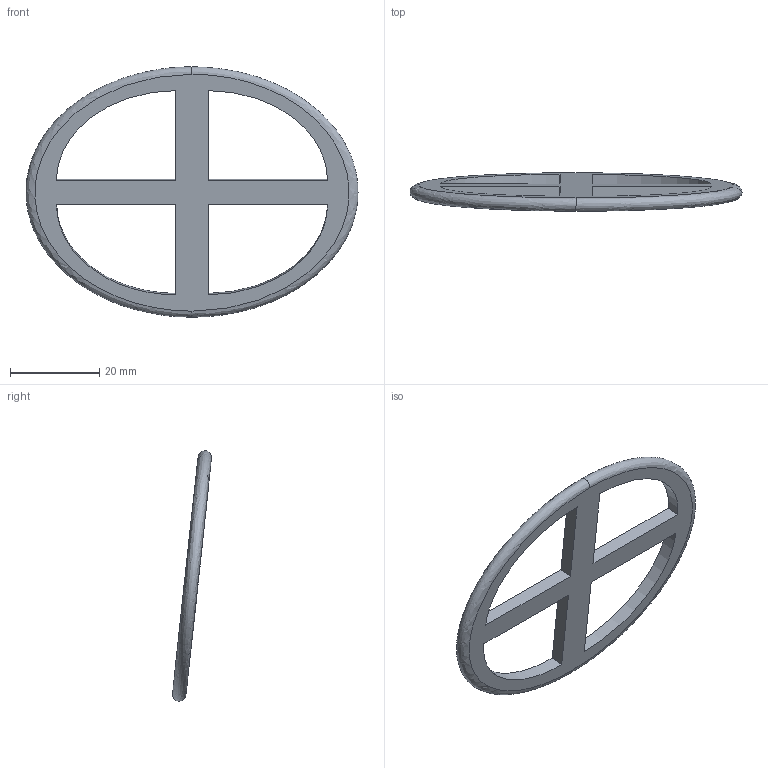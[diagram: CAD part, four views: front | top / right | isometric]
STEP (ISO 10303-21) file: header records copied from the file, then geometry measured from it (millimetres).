
FILE_DESCRIPTION(/* description */ (''),/* implementation_level */ '2;1');
FILE_NAME(/* name */ 'M-WIDE~3',/* time_stamp */ '2020-04-10T21:38:40+03:00',/* author */ (''),/* organization */ (''),/* preprocessor_version */ 'ST-DEVELOPER v16.5',/* originating_system */ '',/* authorisation */ '');
FILE_SCHEMA (('AUTOMOTIVE_DESIGN'));
Length unit declared in the file: millimetre
Products named in the file (1): Document
Bounding box: 74.31 x 8.72 x 56.03 mm (x, y, z)
Volume: 4537.4 mm3; surface area: 4516.9 mm2
Topology: 1 solids, 1 shells, 18 faces, 46 edges, 30 vertices
Faces by surface type: plane 10, bspline 8
Entity records: 1332 total; most frequent: CARTESIAN_POINT 1006, ORIENTED_EDGE 92, EDGE_CURVE 46, VERTEX_POINT 30, EDGE_LOOP 26, B_SPLINE_CURVE_WITH_KNOTS 24, ADVANCED_FACE 18, FACE_OUTER_BOUND 18
